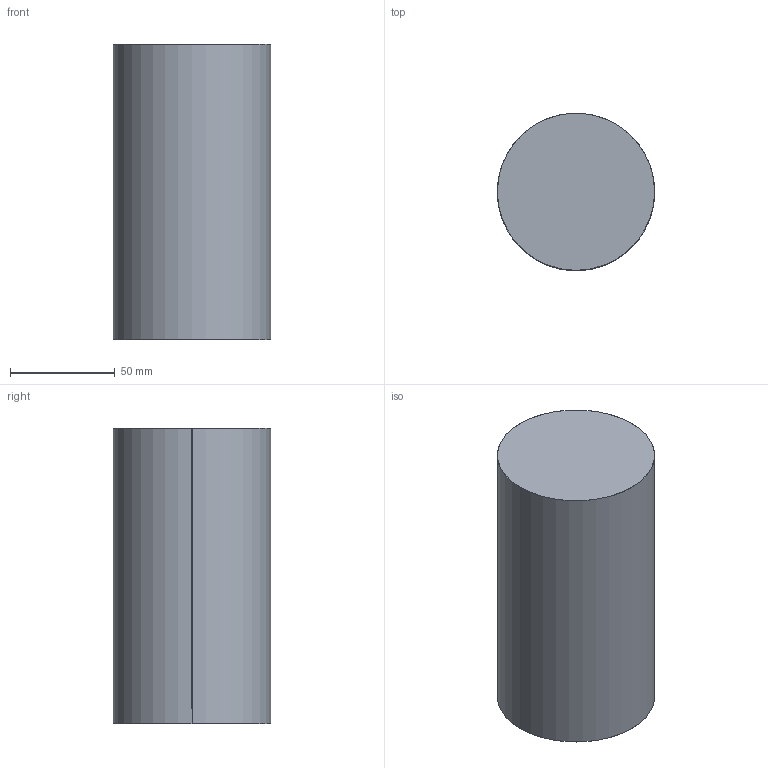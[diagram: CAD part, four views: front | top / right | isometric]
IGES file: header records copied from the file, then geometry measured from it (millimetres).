
Start section: SolidWorks IGES file using analytic representation for surfaces
Global section: file name: C:\Users\Adam\Documents\GitHub\bluerobotics.github.io-dev\batteries\cad\BATTERY-LI-4S-18AH-R1.IGS; native system: SolidWorks 2014; preprocessor: SolidWorks 2014; author: Adam; date: 170104.094218; units: millimetre
Bounding box: 75 x 75 x 141 mm (x, y, z)
Surface area: 42058.1 mm2 (no closed solid volume)
Topology: 0 solids, 0 shells, 4 faces, 136 edges, 136 vertices
Faces by surface type: revolution 2, bspline 2
